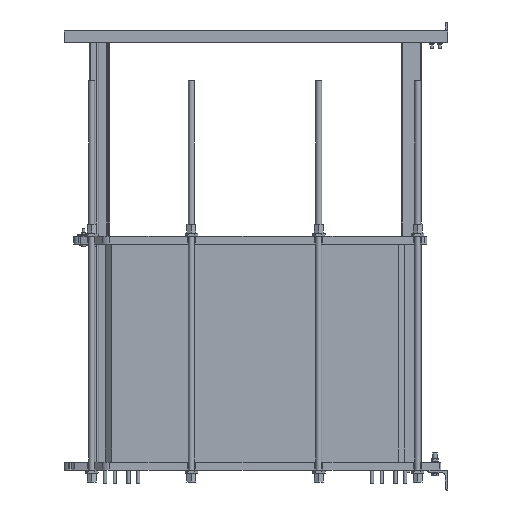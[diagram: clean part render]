
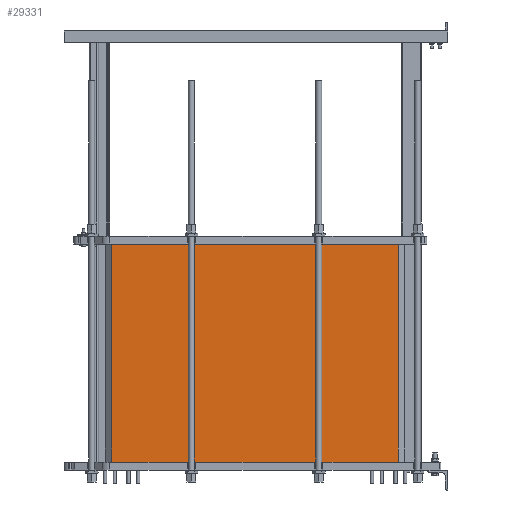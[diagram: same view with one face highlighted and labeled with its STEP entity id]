
A CAD part, left-side view. The second image highlights one B-rep face of the part: STEP entity #29331.
In plain terms, the highlighted planar face has unit normal (-1, 0, 0).
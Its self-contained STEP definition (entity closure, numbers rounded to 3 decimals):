
#21680=CARTESIAN_POINT('',(-187.5,705.0,1132.0));
#21681=VERTEX_POINT('',#21680);
#21688=CARTESIAN_POINT('',(-187.5,-731.0,1132.0));
#21689=VERTEX_POINT('',#21688);
#21690=CARTESIAN_POINT('',(-187.5,-731.0,1132.0));
#21691=DIRECTION('',(0.0,1.0,0.0));
#21692=VECTOR('',#21691,1436.0);
#21693=LINE('',#21690,#21692);
#21694=EDGE_CURVE('',#21689,#21681,#21693,.T.);
#28280=CARTESIAN_POINT('',(-187.5,-731.0,40.0));
#28281=VERTEX_POINT('',#28280);
#28288=CARTESIAN_POINT('',(-187.5,705.0,40.0));
#28289=VERTEX_POINT('',#28288);
#28290=CARTESIAN_POINT('',(-187.5,-731.0,40.0));
#28291=DIRECTION('',(0.0,1.0,0.0));
#28292=VECTOR('',#28291,1436.0);
#28293=LINE('',#28290,#28292);
#28294=EDGE_CURVE('',#28281,#28289,#28293,.T.);
#29306=CARTESIAN_POINT('',(-187.5,705.0,40.0));
#29307=DIRECTION('',(0.0,0.0,1.0));
#29308=VECTOR('',#29307,1092.0);
#29309=LINE('',#29306,#29308);
#29310=EDGE_CURVE('',#28289,#21681,#29309,.T.);
#29315=CARTESIAN_POINT('',(-187.5,-731.0,40.0));
#29316=DIRECTION('',(-1.0,0.0,0.0));
#29317=DIRECTION('',(0.0,0.0,1.0));
#29318=AXIS2_PLACEMENT_3D('',#29315,#29316,#29317);
#29319=PLANE('',#29318);
#29320=ORIENTED_EDGE('',*,*,#21694,.T.);
#29321=ORIENTED_EDGE('',*,*,#29310,.F.);
#29322=ORIENTED_EDGE('',*,*,#28294,.F.);
#29323=CARTESIAN_POINT('',(-187.5,-731.0,40.0));
#29324=DIRECTION('',(0.0,0.0,1.0));
#29325=VECTOR('',#29324,1092.0);
#29326=LINE('',#29323,#29325);
#29327=EDGE_CURVE('',#28281,#21689,#29326,.T.);
#29328=ORIENTED_EDGE('',*,*,#29327,.T.);
#29329=EDGE_LOOP('',(#29320,#29321,#29322,#29328));
#29330=FACE_OUTER_BOUND('',#29329,.T.);
#29331=ADVANCED_FACE('',(#29330),#29319,.T.);
